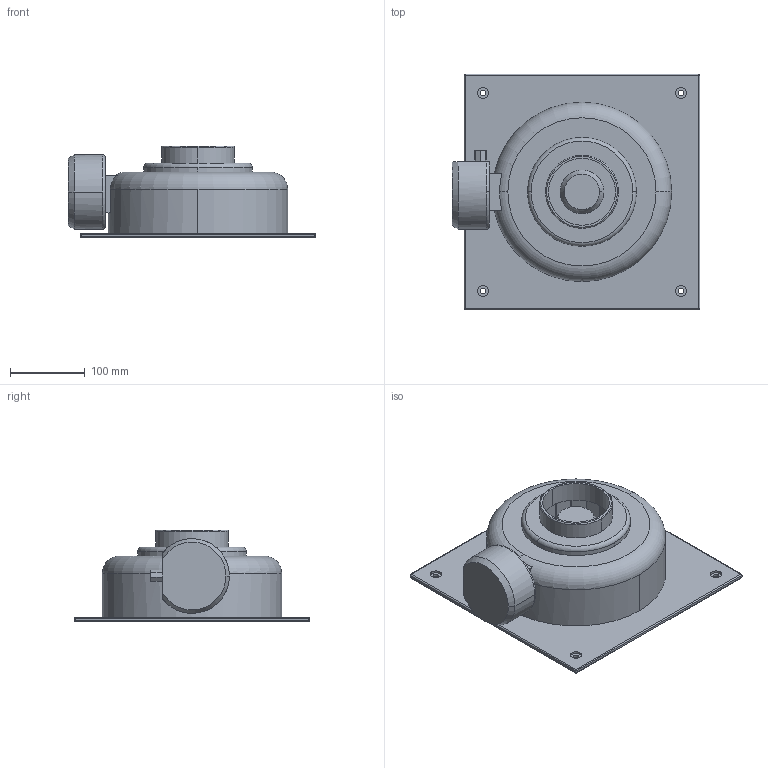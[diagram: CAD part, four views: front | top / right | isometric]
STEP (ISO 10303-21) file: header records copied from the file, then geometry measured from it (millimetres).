
FILE_DESCRIPTION(('STEP AP214'),'1');
FILE_NAME('fan_5145624200.stp','2017-03-31T18:13:17',('TraceParts'),('TraceParts S.A.'),'Spatial InterOp 3D',' ',' ');
FILE_SCHEMA(('automotive_design'));
Length unit declared in the file: millimetre
Products named in the file (1): fan_5145624200
Bounding box: 331 x 315 x 123 mm (x, y, z)
Volume: 1710935.6 mm3; surface area: 512032.3 mm2
Topology: 1 solids, 1 shells, 157 faces, 414 edges, 264 vertices
Faces by surface type: plane 88, cylinder 44, torus 13, sphere 8, cone 4
Entity records: 6277 total; most frequent: CARTESIAN_POINT 976, DIRECTION 855, ORIENTED_EDGE 812, EDGE_CURVE 406, AXIS2_PLACEMENT_3D 297, VERTEX_POINT 264, LINE 261, VECTOR 261
